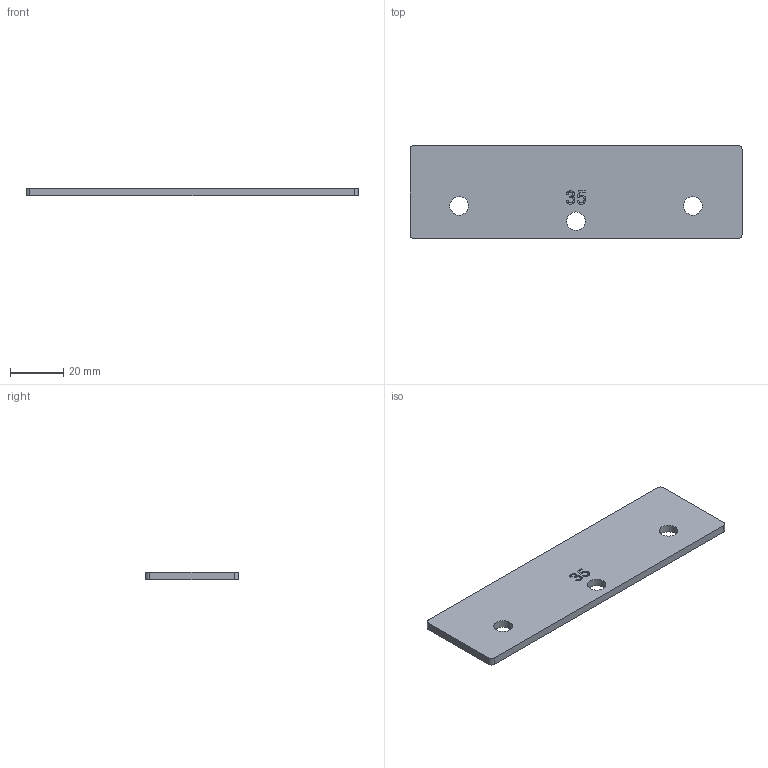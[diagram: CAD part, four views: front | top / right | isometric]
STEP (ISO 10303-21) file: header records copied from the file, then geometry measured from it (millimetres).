
FILE_DESCRIPTION(('STEP AP242'),'1');
FILE_NAME('r Allmatic und Garant.stp','2024-06-17T13:15:05',('WM'),('Schleif-Tec'),'Spatial InterOp 3D','CimatronE 16.0',' ');
FILE_SCHEMA(('AP242_MANAGED_MODEL_BASED_3D_ENGINEERING_MIM_LF'));
Length unit declared in the file: millimetre
Products named in the file (1): 13
Bounding box: 125 x 35 x 3 mm (x, y, z)
Volume: 12770.2 mm3; surface area: 9675.2 mm2
Topology: 1 solids, 1 shells, 31 faces, 84 edges, 57 vertices
Faces by surface type: plane 18, cylinder 7, extrusion 6
Full cylindrical faces by diameter (mm): 7 x3
Entity records: 1578 total; most frequent: CARTESIAN_POINT 548, ORIENTED_EDGE 156, DIRECTION 138, EDGE_CURVE 78, VECTOR 58, VERTEX_POINT 54, LINE 52, EDGE_LOOP 42
